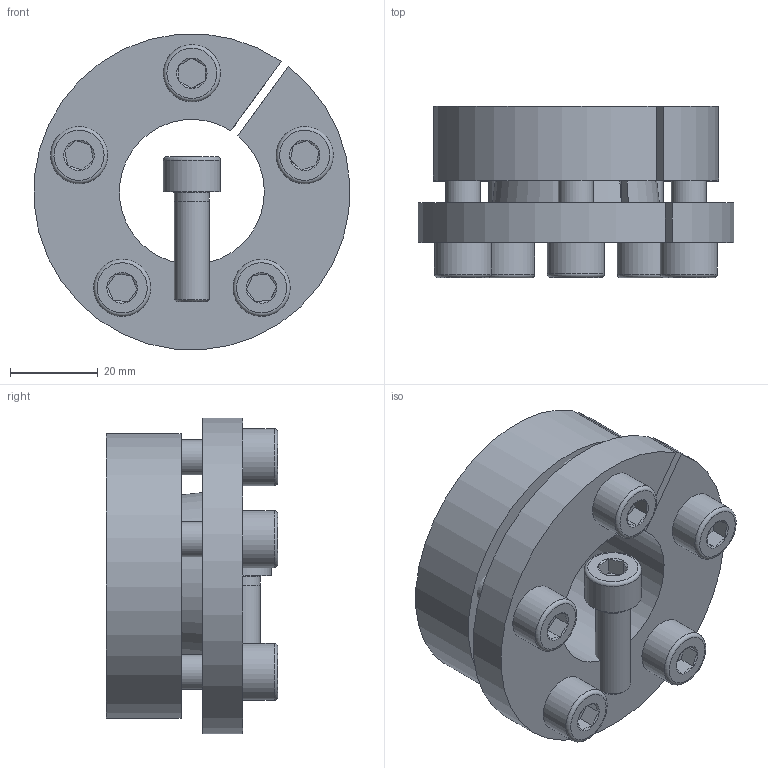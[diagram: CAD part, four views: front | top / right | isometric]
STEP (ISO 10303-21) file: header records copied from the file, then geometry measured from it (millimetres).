
FILE_DESCRIPTION( ( 'Unknown' ), '1' );
FILE_NAME( 'C:/Dokumente und Einstellungen/Sven/Desktop/15/KBS 15 - 33 x 65.stp', 'Unknown', ( 'Unknown' ), ( 'Unknown' ), 'XStep 1.0', 'Unknown', ' ' );
FILE_SCHEMA( ( 'automotive_design' ) );
Length unit declared in the file: millimetre
Products named in the file (3): Assem1; ISO EN DIN 4762 M8x25_16; KBS 15 - 33 x 65_0
Bounding box: 71.85 x 39 x 71.81 mm (x, y, z)
Volume: 143630.4 mm3; surface area: 53691.3 mm2
Topology: 8 solids, 8 shells, 194 faces, 404 edges, 250 vertices
Faces by surface type: plane 86, cylinder 50, cone 46, torus 12
Full cylindrical faces by diameter (mm): 6.647 x10, 7 x6, 8 x12, 9 x10, 13 x6
Entity records: 1524 total; most frequent: CARTESIAN_POINT 256, DIRECTION 230, ORIENTED_EDGE 170, AXIS2_PLACEMENT_3D 101, EDGE_LOOP 88, EDGE_CURVE 85, FACE_OUTER_BOUND 63, VERTEX_POINT 63
